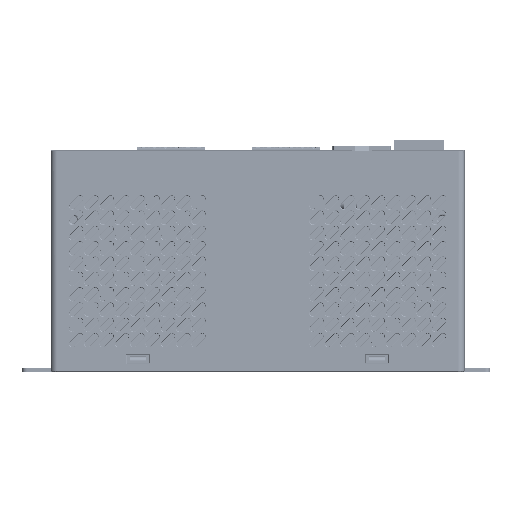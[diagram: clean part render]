
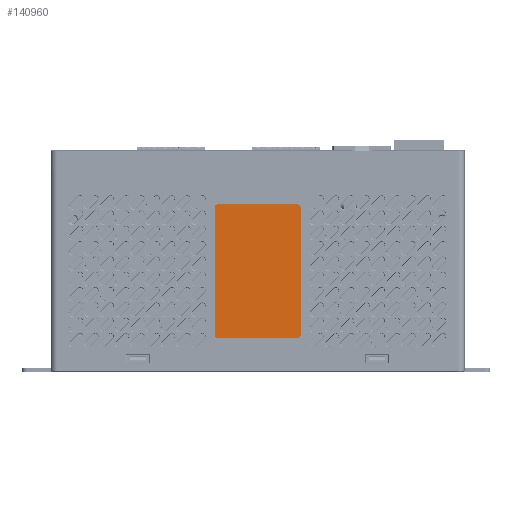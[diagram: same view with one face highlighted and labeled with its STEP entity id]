
A CAD part, left-side view. The second image highlights one B-rep face of the part: STEP entity #140960.
In plain terms, the highlighted planar face has unit normal (-1, 0, 0).
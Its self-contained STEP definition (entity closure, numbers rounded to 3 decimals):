
#8038 = CARTESIAN_POINT ( 'NONE',  ( -12.2, 57.5, 10.752 ) ) ;
#8550 = CARTESIAN_POINT ( 'NONE',  ( -12.2, 83.5, 51.752 ) ) ;
#8781 = ORIENTED_EDGE ( 'NONE', *, *, #78751, .T. ) ;
#13659 = EDGE_CURVE ( 'NONE', #24774, #129741, #147624, .T. ) ;
#15063 = CIRCLE ( 'NONE', #240631, 1. ) ;
#18965 = AXIS2_PLACEMENT_3D ( 'NONE', #250040, #28217, #122996 ) ;
#24774 = VERTEX_POINT ( 'NONE', #8038 ) ;
#26135 = VERTEX_POINT ( 'NONE', #112869 ) ;
#28217 = DIRECTION ( 'NONE',  ( -1., 0., 0. ) ) ;
#28974 = CARTESIAN_POINT ( 'NONE',  ( -12.2, 56.5, 51.752 ) ) ;
#38145 = AXIS2_PLACEMENT_3D ( 'NONE', #43337, #71655, #75602 ) ;
#43337 = CARTESIAN_POINT ( 'NONE',  ( -12.2, 57.5, 11.752 ) ) ;
#47903 = CIRCLE ( 'NONE', #215494, 1. ) ;
#58930 = LINE ( 'NONE', #89210, #312866 ) ;
#64741 = VECTOR ( 'NONE', #284123, 1000. ) ;
#66266 = LINE ( 'NONE', #195295, #64741 ) ;
#67151 = DIRECTION ( 'NONE',  ( 0., 0., 1. ) ) ;
#69809 = ORIENTED_EDGE ( 'NONE', *, *, #91866, .T. ) ;
#70553 = EDGE_CURVE ( 'NONE', #101289, #24774, #303097, .T. ) ;
#71655 = DIRECTION ( 'NONE',  ( -1., 0., 0. ) ) ;
#75602 = DIRECTION ( 'NONE',  ( 0., 0., 1. ) ) ;
#78751 = EDGE_CURVE ( 'NONE', #331615, #169962, #15063, .T. ) ;
#89210 = CARTESIAN_POINT ( 'NONE',  ( -12.2, 56.5, 11.752 ) ) ;
#90805 = VERTEX_POINT ( 'NONE', #229352 ) ;
#91866 = EDGE_CURVE ( 'NONE', #90805, #101289, #47903, .T. ) ;
#101289 = VERTEX_POINT ( 'NONE', #383568 ) ;
#108921 = VERTEX_POINT ( 'NONE', #8550 ) ;
#112869 = CARTESIAN_POINT ( 'NONE',  ( -12.2, 82.5, 52.752 ) ) ;
#115319 = DIRECTION ( 'NONE',  ( 0., 0., 1. ) ) ;
#121192 = VECTOR ( 'NONE', #176420, 1000. ) ;
#122789 = ORIENTED_EDGE ( 'NONE', *, *, #70553, .T. ) ;
#122996 = DIRECTION ( 'NONE',  ( 0., 0., 1. ) ) ;
#129741 = VERTEX_POINT ( 'NONE', #236705 ) ;
#140960 = ADVANCED_FACE ( 'NONE', ( #369784 ), #317227, .T. ) ;
#147624 = CIRCLE ( 'NONE', #38145, 1. ) ;
#155686 = CARTESIAN_POINT ( 'NONE',  ( -12.2, 82.5, 10.752 ) ) ;
#161895 = CARTESIAN_POINT ( 'NONE',  ( -12.2, 57.5, 11.752 ) ) ;
#165400 = EDGE_CURVE ( 'NONE', #108921, #90805, #327721, .T. ) ;
#169962 = VERTEX_POINT ( 'NONE', #296665 ) ;
#172164 = DIRECTION ( 'NONE',  ( -1., 0., 0. ) ) ;
#174087 = ORIENTED_EDGE ( 'NONE', *, *, #342297, .T. ) ;
#176420 = DIRECTION ( 'NONE',  ( 0., 0., -1. ) ) ;
#194182 = DIRECTION ( 'NONE',  ( -1., 0., 0. ) ) ;
#194517 = DIRECTION ( 'NONE',  ( 0., 0., 1. ) ) ;
#195295 = CARTESIAN_POINT ( 'NONE',  ( -12.2, 82.5, 52.752 ) ) ;
#200467 = CARTESIAN_POINT ( 'NONE',  ( -12.2, 57.5, 51.752 ) ) ;
#215494 = AXIS2_PLACEMENT_3D ( 'NONE', #363425, #397605, #115319 ) ;
#216228 = DIRECTION ( 'NONE',  ( 0., -1., 0. ) ) ;
#229352 = CARTESIAN_POINT ( 'NONE',  ( -12.2, 83.5, 11.752 ) ) ;
#236705 = CARTESIAN_POINT ( 'NONE',  ( -12.2, 56.5, 11.752 ) ) ;
#240631 = AXIS2_PLACEMENT_3D ( 'NONE', #200467, #172164, #194517 ) ;
#250040 = CARTESIAN_POINT ( 'NONE',  ( -12.2, 82.5, 51.752 ) ) ;
#267204 = CARTESIAN_POINT ( 'NONE',  ( -12.2, 83.5, 11.752 ) ) ;
#276993 = VECTOR ( 'NONE', #216228, 1000. ) ;
#280729 = DIRECTION ( 'NONE',  ( 0., 0., 1. ) ) ;
#284123 = DIRECTION ( 'NONE',  ( 0., 1., 0. ) ) ;
#296665 = CARTESIAN_POINT ( 'NONE',  ( -12.2, 57.5, 52.752 ) ) ;
#303097 = LINE ( 'NONE', #155686, #276993 ) ;
#312866 = VECTOR ( 'NONE', #280729, 1000. ) ;
#317227 = PLANE ( 'NONE',  #386776 ) ;
#321704 = ORIENTED_EDGE ( 'NONE', *, *, #338234, .T. ) ;
#324461 = ORIENTED_EDGE ( 'NONE', *, *, #337180, .T. ) ;
#327721 = LINE ( 'NONE', #267204, #121192 ) ;
#331615 = VERTEX_POINT ( 'NONE', #28974 ) ;
#337180 = EDGE_CURVE ( 'NONE', #129741, #331615, #58930, .T. ) ;
#338234 = EDGE_CURVE ( 'NONE', #26135, #108921, #353044, .T. ) ;
#342297 = EDGE_CURVE ( 'NONE', #169962, #26135, #66266, .T. ) ;
#353044 = CIRCLE ( 'NONE', #18965, 1. ) ;
#355203 = ORIENTED_EDGE ( 'NONE', *, *, #165400, .T. ) ;
#363425 = CARTESIAN_POINT ( 'NONE',  ( -12.2, 82.5, 11.752 ) ) ;
#369784 = FACE_OUTER_BOUND ( 'NONE', #381448, .T. ) ;
#381448 = EDGE_LOOP ( 'NONE', ( #8781, #174087, #321704, #355203, #69809, #122789, #387361, #324461 ) ) ;
#383568 = CARTESIAN_POINT ( 'NONE',  ( -12.2, 82.5, 10.752 ) ) ;
#386776 = AXIS2_PLACEMENT_3D ( 'NONE', #161895, #194182, #67151 ) ;
#387361 = ORIENTED_EDGE ( 'NONE', *, *, #13659, .T. ) ;
#397605 = DIRECTION ( 'NONE',  ( -1., 0., 0. ) ) ;
